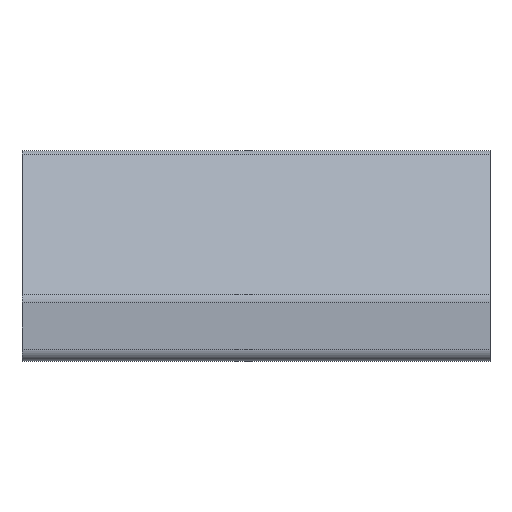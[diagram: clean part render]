
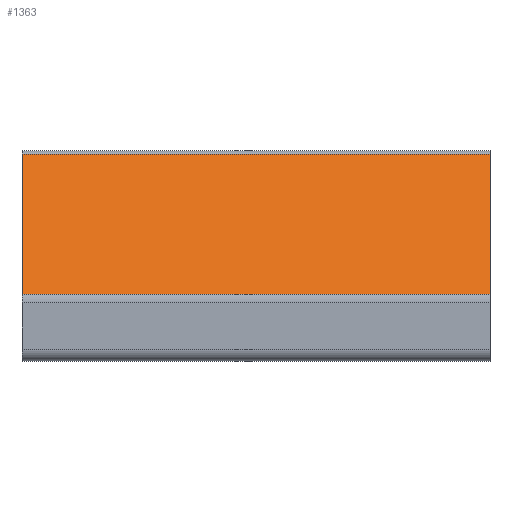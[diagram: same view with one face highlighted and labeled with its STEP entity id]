
A CAD part, top view. The second image highlights one B-rep face of the part: STEP entity #1363.
In plain terms, the highlighted planar face has unit normal (0, 0.707, 0.707).
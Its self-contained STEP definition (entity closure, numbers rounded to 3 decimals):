
#43=PLANE('',#1476);
#99=FACE_OUTER_BOUND('',#168,.T.);
#168=EDGE_LOOP('',(#1020,#1021,#1022,#1023));
#284=LINE('',#2113,#435);
#285=LINE('',#2117,#436);
#286=LINE('',#2119,#437);
#287=LINE('',#2120,#438);
#435=VECTOR('',#1710,1000.);
#436=VECTOR('',#1715,1000.);
#437=VECTOR('',#1716,1000.);
#438=VECTOR('',#1717,1000.);
#635=VERTEX_POINT('',#2110);
#636=VERTEX_POINT('',#2112);
#637=VERTEX_POINT('',#2116);
#638=VERTEX_POINT('',#2118);
#793=EDGE_CURVE('',#636,#635,#284,.T.);
#795=EDGE_CURVE('',#635,#637,#285,.T.);
#796=EDGE_CURVE('',#638,#637,#286,.T.);
#797=EDGE_CURVE('',#636,#638,#287,.T.);
#1020=ORIENTED_EDGE('',*,*,#795,.T.);
#1021=ORIENTED_EDGE('',*,*,#796,.F.);
#1022=ORIENTED_EDGE('',*,*,#797,.F.);
#1023=ORIENTED_EDGE('',*,*,#793,.T.);
#1363=ADVANCED_FACE('',(#99),#43,.F.);
#1476=AXIS2_PLACEMENT_3D('',#2115,#1713,#1714);
#1710=DIRECTION('',(-1.,0.,0.));
#1713=DIRECTION('center_axis',(0.,-0.707,-0.707));
#1714=DIRECTION('ref_axis',(0.,0.707,-0.707));
#1715=DIRECTION('',(0.,-0.707,0.707));
#1716=DIRECTION('',(-1.,0.,0.));
#1717=DIRECTION('',(0.,-0.707,0.707));
#2110=CARTESIAN_POINT('',(0.,21.768,-8.268));
#2112=CARTESIAN_POINT('',(100.,21.768,-8.268));
#2113=CARTESIAN_POINT('',(100.,21.768,-8.268));
#2115=CARTESIAN_POINT('Origin',(100.,-8.268,21.768));
#2116=CARTESIAN_POINT('',(0.,-8.268,21.768));
#2117=CARTESIAN_POINT('',(0.,-8.268,21.768));
#2118=CARTESIAN_POINT('',(100.,-8.268,21.768));
#2119=CARTESIAN_POINT('',(100.,-8.268,21.768));
#2120=CARTESIAN_POINT('',(100.,-8.268,21.768));
